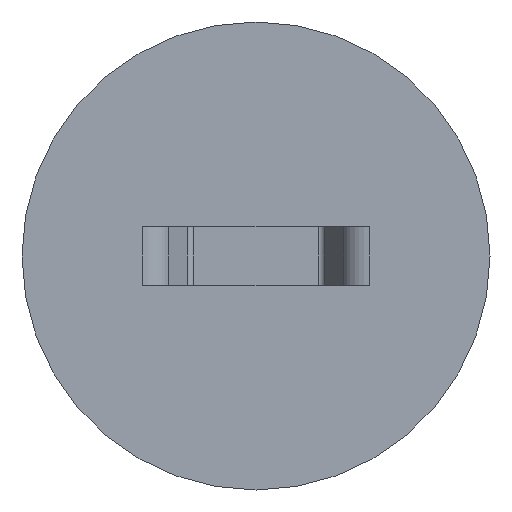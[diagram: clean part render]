
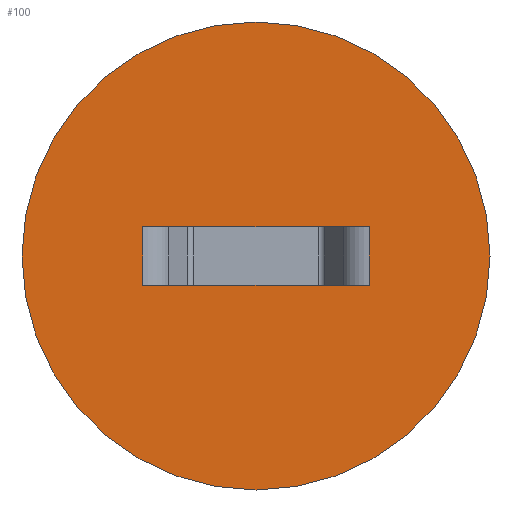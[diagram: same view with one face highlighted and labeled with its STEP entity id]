
A CAD part, front view. The second image highlights one B-rep face of the part: STEP entity #100.
In plain terms, the highlighted planar face has unit normal (0, -1, 0).
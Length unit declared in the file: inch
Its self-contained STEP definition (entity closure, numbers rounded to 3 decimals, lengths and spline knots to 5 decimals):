
#2 = EDGE_CURVE ( 'NONE', #425, #349, #777, .T. ) ;
#23 = CARTESIAN_POINT ( 'NONE',  ( 0., -0.059, -0.7035 ) ) ;
#47 = FACE_BOUND ( 'NONE', #155, .T. ) ;
#97 = VECTOR ( 'NONE', #490, 39.37008 ) ;
#100 = ADVANCED_FACE ( 'NONE', ( #47, #273 ), #720, .T. ) ;
#105 = VERTEX_POINT ( 'NONE', #243 ) ;
#114 = CIRCLE ( 'NONE', #725, 0.625 ) ;
#119 = ORIENTED_EDGE ( 'NONE', *, *, #544, .F. ) ;
#125 = CARTESIAN_POINT ( 'NONE',  ( -0.30305, -0.059, -0.157 ) ) ;
#130 = DIRECTION ( 'NONE',  ( 0., 0., -1. ) ) ;
#131 = EDGE_CURVE ( 'NONE', #349, #425, #114, .T. ) ;
#138 = EDGE_LOOP ( 'NONE', ( #171, #309 ) ) ;
#155 = EDGE_LOOP ( 'NONE', ( #802, #119, #735, #526 ) ) ;
#171 = ORIENTED_EDGE ( 'NONE', *, *, #131, .T. ) ;
#176 = VERTEX_POINT ( 'NONE', #604 ) ;
#187 = LINE ( 'NONE', #673, #97 ) ;
#198 = CARTESIAN_POINT ( 'NONE',  ( -0.30305, -0.059, -0.157 ) ) ;
#200 = VERTEX_POINT ( 'NONE', #226 ) ;
#203 = DIRECTION ( 'NONE',  ( -1., 0., 0. ) ) ;
#226 = CARTESIAN_POINT ( 'NONE',  ( -0.30305, -0.059, 0. ) ) ;
#234 = AXIS2_PLACEMENT_3D ( 'NONE', #671, #797, #460 ) ;
#243 = CARTESIAN_POINT ( 'NONE',  ( -0.30305, -0.059, -0.157 ) ) ;
#248 = VECTOR ( 'NONE', #310, 39.37008 ) ;
#262 = LINE ( 'NONE', #756, #593 ) ;
#266 = DIRECTION ( 'NONE',  ( 0., -1., 0. ) ) ;
#273 = FACE_OUTER_BOUND ( 'NONE', #138, .T. ) ;
#279 = EDGE_CURVE ( 'NONE', #176, #200, #262, .T. ) ;
#295 = DIRECTION ( 'NONE',  ( 0., 0., -1. ) ) ;
#309 = ORIENTED_EDGE ( 'NONE', *, *, #2, .T. ) ;
#310 = DIRECTION ( 'NONE',  ( 0., 0., 1. ) ) ;
#349 = VERTEX_POINT ( 'NONE', #23 ) ;
#355 = CARTESIAN_POINT ( 'NONE',  ( 0.30305, -0.059, -0.157 ) ) ;
#363 = VERTEX_POINT ( 'NONE', #355 ) ;
#386 = DIRECTION ( 'NONE',  ( 1., 0., 0. ) ) ;
#395 = VECTOR ( 'NONE', #386, 39.37008 ) ;
#425 = VERTEX_POINT ( 'NONE', #474 ) ;
#455 = CARTESIAN_POINT ( 'NONE',  ( 0., -0.059, -0.0785 ) ) ;
#460 = DIRECTION ( 'NONE',  ( 0., 0., -1. ) ) ;
#474 = CARTESIAN_POINT ( 'NONE',  ( 0., -0.059, 0.5465 ) ) ;
#487 = DIRECTION ( 'NONE',  ( 0., -1., 0. ) ) ;
#490 = DIRECTION ( 'NONE',  ( 0., 0., 1. ) ) ;
#498 = LINE ( 'NONE', #125, #248 ) ;
#526 = ORIENTED_EDGE ( 'NONE', *, *, #533, .T. ) ;
#533 = EDGE_CURVE ( 'NONE', #105, #200, #498, .T. ) ;
#544 = EDGE_CURVE ( 'NONE', #363, #176, #187, .T. ) ;
#593 = VECTOR ( 'NONE', #203, 39.37008 ) ;
#604 = CARTESIAN_POINT ( 'NONE',  ( 0.30305, -0.059, 0. ) ) ;
#660 = AXIS2_PLACEMENT_3D ( 'NONE', #455, #266, #130 ) ;
#671 = CARTESIAN_POINT ( 'NONE',  ( -0.625, -0.059, -0.157 ) ) ;
#673 = CARTESIAN_POINT ( 'NONE',  ( 0.30305, -0.059, -0.157 ) ) ;
#692 = LINE ( 'NONE', #198, #395 ) ;
#720 = PLANE ( 'NONE',  #234 ) ;
#725 = AXIS2_PLACEMENT_3D ( 'NONE', #736, #487, #295 ) ;
#735 = ORIENTED_EDGE ( 'NONE', *, *, #763, .F. ) ;
#736 = CARTESIAN_POINT ( 'NONE',  ( 0., -0.059, -0.0785 ) ) ;
#756 = CARTESIAN_POINT ( 'NONE',  ( -0.30305, -0.059, 0. ) ) ;
#763 = EDGE_CURVE ( 'NONE', #105, #363, #692, .T. ) ;
#777 = CIRCLE ( 'NONE', #660, 0.625 ) ;
#797 = DIRECTION ( 'NONE',  ( 0., -1., 0. ) ) ;
#802 = ORIENTED_EDGE ( 'NONE', *, *, #279, .F. ) ;
